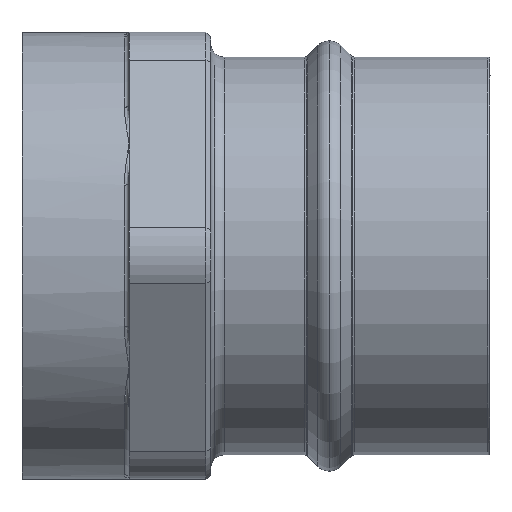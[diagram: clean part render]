
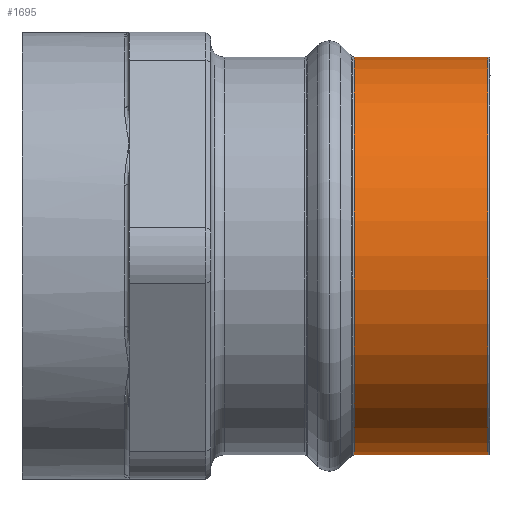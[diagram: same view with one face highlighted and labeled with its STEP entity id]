
A CAD part, top view. The second image highlights one B-rep face of the part: STEP entity #1695.
In plain terms, the highlighted cylindrical face has radius 43.155 mm (diameter 86.31 mm), a partial arc.
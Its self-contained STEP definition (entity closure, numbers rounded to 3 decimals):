
#235=CARTESIAN_POINT('',(-0.505,0.,0.));
#236=DIRECTION('',(1.,0.,0.));
#237=DIRECTION('',(0.,1.,0.));
#238=AXIS2_PLACEMENT_3D('',#235,#236,#237);
#245=CARTESIAN_POINT('',(-29.446,0.,0.));
#246=DIRECTION('',(-1.,0.,0.));
#247=DIRECTION('',(0.,-1.,0.));
#248=AXIS2_PLACEMENT_3D('',#245,#246,#247);
#265=DIRECTION('',(-1.,0.,0.));
#266=VECTOR('',#265,28.941);
#267=CARTESIAN_POINT('',(-0.505,-43.155,0.));
#268=LINE('',#267,#266);
#269=DIRECTION('',(-1.,0.,0.));
#270=VECTOR('',#269,28.941);
#271=CARTESIAN_POINT('',(-0.505,43.155,0.));
#272=LINE('',#271,#270);
#1091=CARTESIAN_POINT('',(-0.505,43.155,0.));
#1092=CARTESIAN_POINT('',(-29.446,43.155,0.));
#1093=VERTEX_POINT('',#1091);
#1094=VERTEX_POINT('',#1092);
#1095=CARTESIAN_POINT('',(-0.505,-43.155,0.));
#1096=CARTESIAN_POINT('',(-29.446,-43.155,0.));
#1097=VERTEX_POINT('',#1095);
#1098=VERTEX_POINT('',#1096);
#1681=CARTESIAN_POINT('',(0.,0.,0.));
#1682=DIRECTION('',(-1.,0.,0.));
#1683=DIRECTION('',(0.,-1.,0.));
#1684=AXIS2_PLACEMENT_3D('',#1681,#1682,#1683);
#1685=CYLINDRICAL_SURFACE('',#1684,43.155);
#1687=ORIENTED_EDGE('',*,*,#1686,.T.);
#1689=ORIENTED_EDGE('',*,*,#1688,.F.);
#1690=ORIENTED_EDGE('',*,*,#1671,.T.);
#1692=ORIENTED_EDGE('',*,*,#1691,.T.);
#1693=EDGE_LOOP('',(#1687,#1689,#1690,#1692));
#1694=FACE_OUTER_BOUND('',#1693,.F.);
#239=CIRCLE('',#238,43.155);
#249=CIRCLE('',#248,43.155);
#1671=EDGE_CURVE('',#1093,#1097,#239,.T.);
#1686=EDGE_CURVE('',#1098,#1094,#249,.T.);
#1688=EDGE_CURVE('',#1093,#1094,#272,.T.);
#1691=EDGE_CURVE('',#1097,#1098,#268,.T.);
#1695=ADVANCED_FACE('',(#1694),#1685,.T.);
